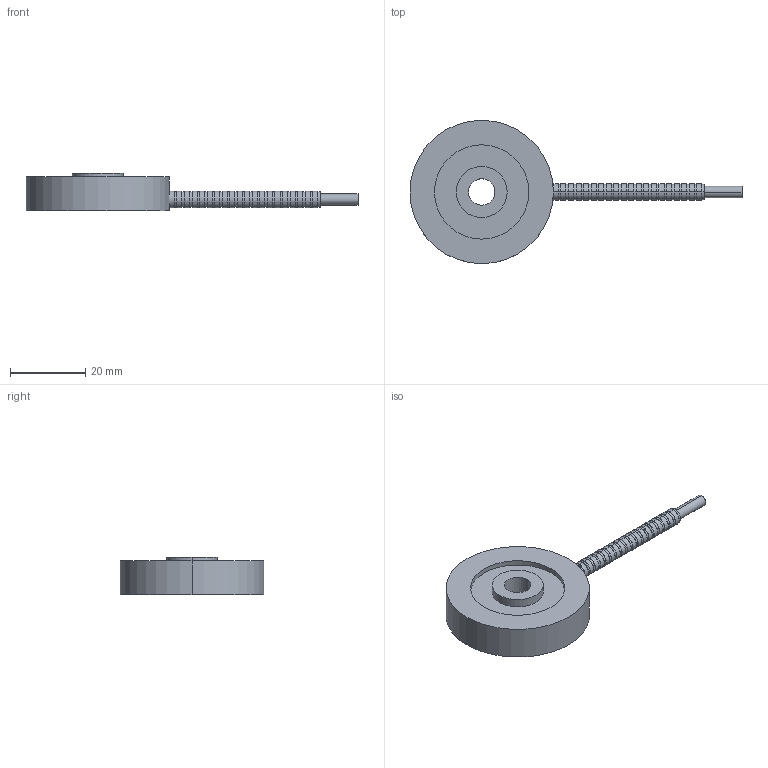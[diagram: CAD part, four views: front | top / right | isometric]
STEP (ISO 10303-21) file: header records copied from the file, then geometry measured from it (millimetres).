
FILE_DESCRIPTION(('STEP AP203'),'1');
FILE_NAME('C:/TPO v2/SharedFS/Outgoing/burster_8438-6002-v010_83vj45m0ei76jprbnz34nnuqd.stp','2013-08-27T15:39:12',('TraceParts'),('TraceParts S.A.'),'XStep 1.0',' ',' ');
FILE_SCHEMA(('CONFIG_CONTROL_DESIGN'));
Length unit declared in the file: millimetre
Products named in the file (1): 1
Bounding box: 88 x 38 x 10 mm (x, y, z)
Volume: 9560.1 mm3; surface area: 4513.6 mm2
Topology: 1 solids, 1 shells, 165 faces, 337 edges, 217 vertices
Faces by surface type: cylinder 104, plane 49, cone 12
Entity records: 4500 total; most frequent: DIRECTION 873, CARTESIAN_POINT 781, ORIENTED_EDGE 662, AXIS2_PLACEMENT_3D 378, EDGE_CURVE 331, VERTEX_POINT 217, EDGE_LOOP 216, CIRCLE 212
